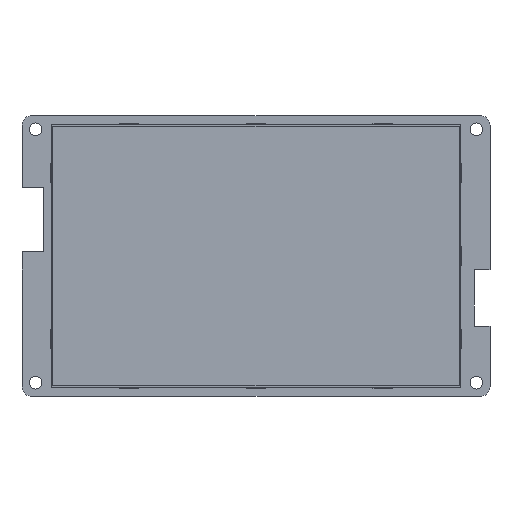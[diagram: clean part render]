
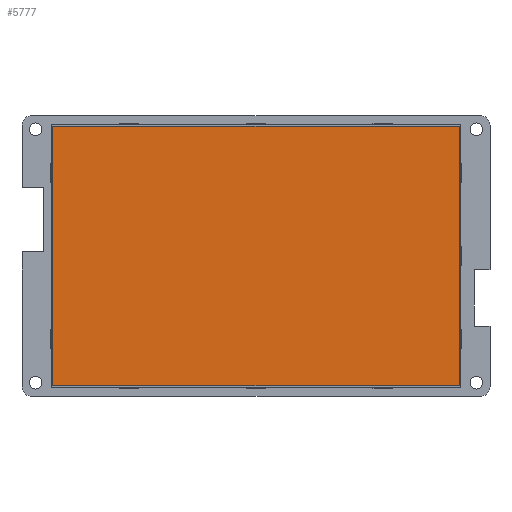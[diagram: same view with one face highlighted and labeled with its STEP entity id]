
A CAD part, front view. The second image highlights one B-rep face of the part: STEP entity #5777.
In plain terms, the highlighted planar face has unit normal (0, -1, 0).
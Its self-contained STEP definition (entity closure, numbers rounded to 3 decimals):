
#5698=DIRECTION('',(0.,0.,1.));
#5699=VECTOR('',#5698,67.7);
#5700=CARTESIAN_POINT('',(-53.,0.,-33.85));
#5701=LINE('',#5700,#5699);
#5702=DIRECTION('',(1.,0.,0.));
#5703=VECTOR('',#5702,106.);
#5704=CARTESIAN_POINT('',(-53.,0.,33.85));
#5705=LINE('',#5704,#5703);
#5706=DIRECTION('',(0.,0.,-1.));
#5707=VECTOR('',#5706,67.7);
#5708=CARTESIAN_POINT('',(53.,0.,33.85));
#5709=LINE('',#5708,#5707);
#5710=DIRECTION('',(-1.,0.,0.));
#5711=VECTOR('',#5710,106.);
#5712=CARTESIAN_POINT('',(53.,0.,-33.85));
#5713=LINE('',#5712,#5711);
#5746=CARTESIAN_POINT('',(-53.,0.,-33.85));
#5747=CARTESIAN_POINT('',(-53.,0.,33.85));
#5748=VERTEX_POINT('',#5746);
#5749=VERTEX_POINT('',#5747);
#5750=CARTESIAN_POINT('',(53.,0.,33.85));
#5751=VERTEX_POINT('',#5750);
#5752=CARTESIAN_POINT('',(53.,0.,-33.85));
#5753=VERTEX_POINT('',#5752);
#5762=CARTESIAN_POINT('',(0.,0.,0.));
#5763=DIRECTION('',(0.,1.,0.));
#5764=DIRECTION('',(1.,0.,0.));
#5765=AXIS2_PLACEMENT_3D('',#5762,#5763,#5764);
#5766=PLANE('',#5765);
#5768=ORIENTED_EDGE('',*,*,#5767,.T.);
#5770=ORIENTED_EDGE('',*,*,#5769,.T.);
#5772=ORIENTED_EDGE('',*,*,#5771,.T.);
#5774=ORIENTED_EDGE('',*,*,#5773,.T.);
#5775=EDGE_LOOP('',(#5768,#5770,#5772,#5774));
#5776=FACE_OUTER_BOUND('',#5775,.F.);
#5767=EDGE_CURVE('',#5748,#5749,#5701,.T.);
#5769=EDGE_CURVE('',#5749,#5751,#5705,.T.);
#5771=EDGE_CURVE('',#5751,#5753,#5709,.T.);
#5773=EDGE_CURVE('',#5753,#5748,#5713,.T.);
#5777=ADVANCED_FACE('',(#5776),#5766,.F.);
